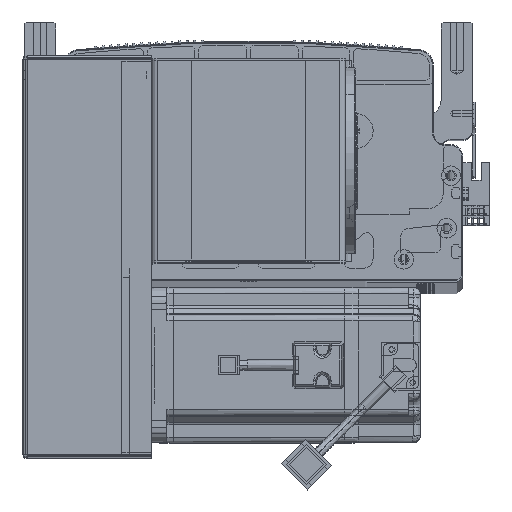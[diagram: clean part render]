
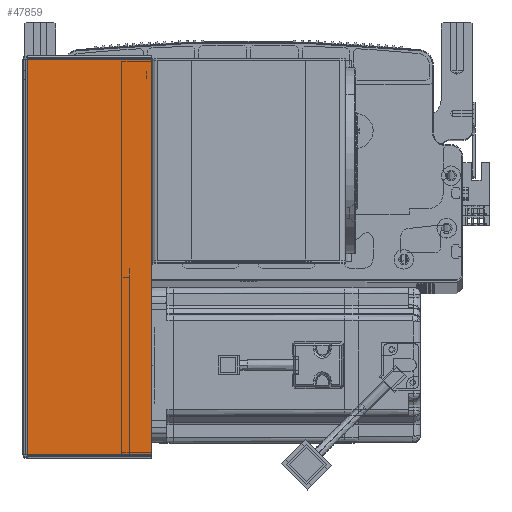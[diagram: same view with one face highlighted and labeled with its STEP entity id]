
A CAD part, top view. The second image highlights one B-rep face of the part: STEP entity #47859.
In plain terms, the highlighted planar face has unit normal (0, 0, 1) as drawn and (0, -1, 0) by its records, which use the part's own axes.
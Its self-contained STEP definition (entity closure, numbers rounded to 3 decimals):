
#1508 = LINE ( 'NONE', #74671, #46538 ) ;
#3839 = ORIENTED_EDGE ( 'NONE', *, *, #22449, .T. ) ;
#4035 = FACE_OUTER_BOUND ( 'NONE', #42027, .T. ) ;
#5155 = ORIENTED_EDGE ( 'NONE', *, *, #23218, .F. ) ;
#16889 = CARTESIAN_POINT ( 'NONE',  ( 0., -1.5, -0.707 ) ) ;
#17735 = LINE ( 'NONE', #35670, #73580 ) ;
#19432 = DIRECTION ( 'NONE',  ( 1., 0., 0. ) ) ;
#19645 = DIRECTION ( 'NONE',  ( 0., 0., 1. ) ) ;
#20237 = EDGE_CURVE ( 'NONE', #99608, #24818, #17735, .T. ) ;
#22449 = EDGE_CURVE ( 'NONE', #86655, #99608, #94214, .T. ) ;
#23218 = EDGE_CURVE ( 'NONE', #93484, #24818, #81847, .T. ) ;
#24669 = CARTESIAN_POINT ( 'NONE',  ( 0.737, -1.5, -203.293 ) ) ;
#24818 = VERTEX_POINT ( 'NONE', #74776 ) ;
#35670 = CARTESIAN_POINT ( 'NONE',  ( 64.5, -1.5, 0. ) ) ;
#37003 = DIRECTION ( 'NONE',  ( 0., 0., 1. ) ) ;
#37272 = ORIENTED_EDGE ( 'NONE', *, *, #20237, .T. ) ;
#42027 = EDGE_LOOP ( 'NONE', ( #98142, #3839, #37272, #5155 ) ) ;
#46538 = VECTOR ( 'NONE', #37003, 1000. ) ;
#47859 = ADVANCED_FACE ( 'NONE', ( #4035 ), #69512, .F. ) ;
#48525 = DIRECTION ( 'NONE',  ( 1., 0., 0. ) ) ;
#56857 = AXIS2_PLACEMENT_3D ( 'NONE', #61059, #99947, #68840 ) ;
#61059 = CARTESIAN_POINT ( 'NONE',  ( 0., -1.5, 0. ) ) ;
#62285 = CARTESIAN_POINT ( 'NONE',  ( 0.737, -1.5, -0.707 ) ) ;
#65300 = CARTESIAN_POINT ( 'NONE',  ( 0., -1.5, -203.293 ) ) ;
#68840 = DIRECTION ( 'NONE',  ( -1., 0., 0. ) ) ;
#69512 = PLANE ( 'NONE',  #56857 ) ;
#72064 = VECTOR ( 'NONE', #48525, 1000. ) ;
#73580 = VECTOR ( 'NONE', #19645, 1000. ) ;
#74671 = CARTESIAN_POINT ( 'NONE',  ( 0.737, -1.5, 0. ) ) ;
#74776 = CARTESIAN_POINT ( 'NONE',  ( 64.5, -1.5, -0.707 ) ) ;
#79490 = VECTOR ( 'NONE', #19432, 1000. ) ;
#80795 = CARTESIAN_POINT ( 'NONE',  ( 64.5, -1.5, -203.293 ) ) ;
#81847 = LINE ( 'NONE', #16889, #72064 ) ;
#86655 = VERTEX_POINT ( 'NONE', #24669 ) ;
#90886 = EDGE_CURVE ( 'NONE', #86655, #93484, #1508, .T. ) ;
#93484 = VERTEX_POINT ( 'NONE', #62285 ) ;
#94214 = LINE ( 'NONE', #65300, #79490 ) ;
#98142 = ORIENTED_EDGE ( 'NONE', *, *, #90886, .F. ) ;
#99608 = VERTEX_POINT ( 'NONE', #80795 ) ;
#99947 = DIRECTION ( 'NONE',  ( 0., 1., 0. ) ) ;
